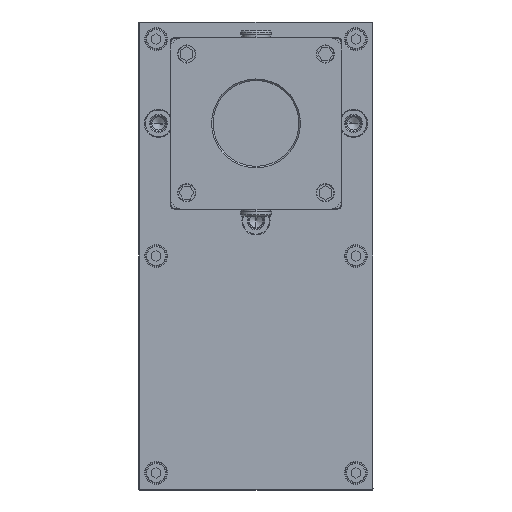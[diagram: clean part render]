
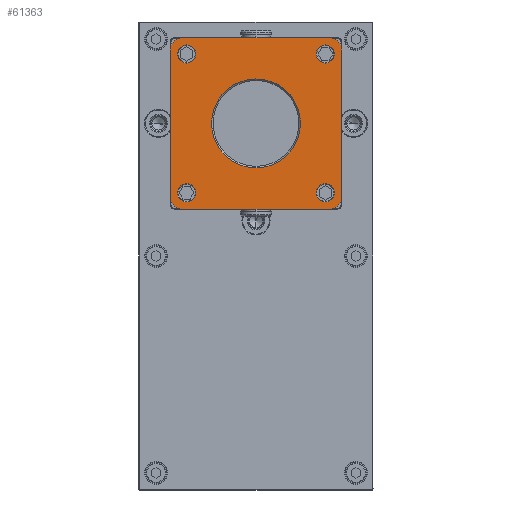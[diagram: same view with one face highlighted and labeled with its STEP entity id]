
A CAD part, front view. The second image highlights one B-rep face of the part: STEP entity #61363.
In plain terms, the highlighted planar face has unit normal (0, -1, 0).
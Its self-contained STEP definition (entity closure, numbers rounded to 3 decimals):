
#60418=CARTESIAN_POINT('',(47.,-7.,47.));
#60419=DIRECTION('',(0.,-1.,0.));
#60420=DIRECTION('',(1.,0.,0.));
#60421=AXIS2_PLACEMENT_3D('',#60418,#60419,#60420);
#60423=DIRECTION('',(0.,0.,-1.));
#60424=VECTOR('',#60423,94.);
#60425=CARTESIAN_POINT('',(55.,-7.,47.));
#60426=LINE('',#60425,#60424);
#60427=CARTESIAN_POINT('',(47.,-7.,-47.));
#60428=DIRECTION('',(0.,-1.,0.));
#60429=DIRECTION('',(0.,0.,-1.));
#60430=AXIS2_PLACEMENT_3D('',#60427,#60428,#60429);
#60432=DIRECTION('',(-1.,0.,0.));
#60433=VECTOR('',#60432,94.);
#60434=CARTESIAN_POINT('',(47.,-7.,-55.));
#60435=LINE('',#60434,#60433);
#60436=CARTESIAN_POINT('',(-47.,-7.,-47.));
#60437=DIRECTION('',(0.,-1.,0.));
#60438=DIRECTION('',(-1.,0.,0.));
#60439=AXIS2_PLACEMENT_3D('',#60436,#60437,#60438);
#60441=DIRECTION('',(0.,0.,1.));
#60442=VECTOR('',#60441,94.);
#60443=CARTESIAN_POINT('',(-55.,-7.,-47.));
#60444=LINE('',#60443,#60442);
#60445=CARTESIAN_POINT('',(-47.,-7.,47.));
#60446=DIRECTION('',(0.,-1.,0.));
#60447=DIRECTION('',(0.,0.,1.));
#60448=AXIS2_PLACEMENT_3D('',#60445,#60446,#60447);
#60450=DIRECTION('',(1.,0.,0.));
#60451=VECTOR('',#60450,94.);
#60452=CARTESIAN_POINT('',(-47.,-7.,55.));
#60453=LINE('',#60452,#60451);
#60454=CARTESIAN_POINT('',(44.5,-7.,-44.5));
#60455=DIRECTION('',(0.,1.,0.));
#60456=DIRECTION('',(1.,0.,0.));
#60457=AXIS2_PLACEMENT_3D('',#60454,#60455,#60456);
#60459=CARTESIAN_POINT('',(44.5,-7.,-44.5));
#60460=DIRECTION('',(0.,1.,0.));
#60461=DIRECTION('',(-1.,0.,0.));
#60462=AXIS2_PLACEMENT_3D('',#60459,#60460,#60461);
#60464=CARTESIAN_POINT('',(44.5,-7.,44.5));
#60465=DIRECTION('',(0.,1.,0.));
#60466=DIRECTION('',(-1.,0.,0.));
#60467=AXIS2_PLACEMENT_3D('',#60464,#60465,#60466);
#60469=CARTESIAN_POINT('',(44.5,-7.,44.5));
#60470=DIRECTION('',(0.,1.,0.));
#60471=DIRECTION('',(1.,0.,0.));
#60472=AXIS2_PLACEMENT_3D('',#60469,#60470,#60471);
#60474=CARTESIAN_POINT('',(-44.5,-7.,44.5));
#60475=DIRECTION('',(0.,1.,0.));
#60476=DIRECTION('',(-1.,0.,0.));
#60477=AXIS2_PLACEMENT_3D('',#60474,#60475,#60476);
#60479=CARTESIAN_POINT('',(-44.5,-7.,44.5));
#60480=DIRECTION('',(0.,1.,0.));
#60481=DIRECTION('',(1.,0.,0.));
#60482=AXIS2_PLACEMENT_3D('',#60479,#60480,#60481);
#60484=CARTESIAN_POINT('',(-44.5,-7.,-44.5));
#60485=DIRECTION('',(0.,1.,0.));
#60486=DIRECTION('',(1.,0.,0.));
#60487=AXIS2_PLACEMENT_3D('',#60484,#60485,#60486);
#60489=CARTESIAN_POINT('',(-44.5,-7.,-44.5));
#60490=DIRECTION('',(0.,1.,0.));
#60491=DIRECTION('',(-1.,0.,0.));
#60492=AXIS2_PLACEMENT_3D('',#60489,#60490,#60491);
#60494=CARTESIAN_POINT('',(0.,-7.,0.));
#60495=DIRECTION('',(0.,1.,0.));
#60496=DIRECTION('',(0.,0.,1.));
#60497=AXIS2_PLACEMENT_3D('',#60494,#60495,#60496);
#60499=CARTESIAN_POINT('',(0.,-7.,0.));
#60500=DIRECTION('',(0.,1.,0.));
#60501=DIRECTION('',(0.,0.,-1.));
#60502=AXIS2_PLACEMENT_3D('',#60499,#60500,#60501);
#61154=CARTESIAN_POINT('',(55.,-7.,47.));
#61155=CARTESIAN_POINT('',(47.,-7.,55.));
#61156=VERTEX_POINT('',#61154);
#61157=VERTEX_POINT('',#61155);
#61162=CARTESIAN_POINT('',(-47.,-7.,55.));
#61163=CARTESIAN_POINT('',(-55.,-7.,47.));
#61164=VERTEX_POINT('',#61162);
#61165=VERTEX_POINT('',#61163);
#61170=CARTESIAN_POINT('',(47.,-7.,-55.));
#61171=CARTESIAN_POINT('',(55.,-7.,-47.));
#61172=VERTEX_POINT('',#61170);
#61173=VERTEX_POINT('',#61171);
#61178=CARTESIAN_POINT('',(-55.,-7.,-47.));
#61179=CARTESIAN_POINT('',(-47.,-7.,-55.));
#61180=VERTEX_POINT('',#61178);
#61181=VERTEX_POINT('',#61179);
#61202=CARTESIAN_POINT('',(50.3,-7.,-44.5));
#61203=CARTESIAN_POINT('',(38.7,-7.,-44.5));
#61204=VERTEX_POINT('',#61202);
#61205=VERTEX_POINT('',#61203);
#61210=CARTESIAN_POINT('',(38.7,-7.,44.5));
#61211=CARTESIAN_POINT('',(50.3,-7.,44.5));
#61212=VERTEX_POINT('',#61210);
#61213=VERTEX_POINT('',#61211);
#61218=CARTESIAN_POINT('',(-50.3,-7.,44.5));
#61219=CARTESIAN_POINT('',(-38.7,-7.,44.5));
#61220=VERTEX_POINT('',#61218);
#61221=VERTEX_POINT('',#61219);
#61226=CARTESIAN_POINT('',(-38.7,-7.,-44.5));
#61227=CARTESIAN_POINT('',(-50.3,-7.,-44.5));
#61228=VERTEX_POINT('',#61226);
#61229=VERTEX_POINT('',#61227);
#61302=CARTESIAN_POINT('',(0.,-7.,28.5));
#61303=CARTESIAN_POINT('',(0.,-7.,-28.5));
#61304=VERTEX_POINT('',#61302);
#61305=VERTEX_POINT('',#61303);
#61310=CARTESIAN_POINT('',(0.,-7.,0.));
#61311=DIRECTION('',(0.,1.,0.));
#61312=DIRECTION('',(1.,0.,0.));
#61313=AXIS2_PLACEMENT_3D('',#61310,#61311,#61312);
#61314=PLANE('',#61313);
#61316=ORIENTED_EDGE('',*,*,#61315,.F.);
#61318=ORIENTED_EDGE('',*,*,#61317,.T.);
#61320=ORIENTED_EDGE('',*,*,#61319,.F.);
#61322=ORIENTED_EDGE('',*,*,#61321,.T.);
#61324=ORIENTED_EDGE('',*,*,#61323,.F.);
#61326=ORIENTED_EDGE('',*,*,#61325,.T.);
#61328=ORIENTED_EDGE('',*,*,#61327,.F.);
#61330=ORIENTED_EDGE('',*,*,#61329,.T.);
#61331=EDGE_LOOP('',(#61316,#61318,#61320,#61322,#61324,#61326,#61328,#61330));
#61332=FACE_OUTER_BOUND('',#61331,.F.);
#61334=ORIENTED_EDGE('',*,*,#61333,.F.);
#61336=ORIENTED_EDGE('',*,*,#61335,.F.);
#61337=EDGE_LOOP('',(#61334,#61336));
#61338=FACE_BOUND('',#61337,.F.);
#61340=ORIENTED_EDGE('',*,*,#61339,.F.);
#61342=ORIENTED_EDGE('',*,*,#61341,.F.);
#61343=EDGE_LOOP('',(#61340,#61342));
#61344=FACE_BOUND('',#61343,.F.);
#61346=ORIENTED_EDGE('',*,*,#61345,.F.);
#61348=ORIENTED_EDGE('',*,*,#61347,.F.);
#61349=EDGE_LOOP('',(#61346,#61348));
#61350=FACE_BOUND('',#61349,.F.);
#61352=ORIENTED_EDGE('',*,*,#61351,.F.);
#61354=ORIENTED_EDGE('',*,*,#61353,.F.);
#61355=EDGE_LOOP('',(#61352,#61354));
#61356=FACE_BOUND('',#61355,.F.);
#61358=ORIENTED_EDGE('',*,*,#61357,.F.);
#61360=ORIENTED_EDGE('',*,*,#61359,.F.);
#61361=EDGE_LOOP('',(#61358,#61360));
#61362=FACE_BOUND('',#61361,.F.);
#61363=ADVANCED_FACE('',(#61332,#61338,#61344,#61350,#61356,#61362),#61314,.F.);
#60422=CIRCLE('',#60421,8.);
#60431=CIRCLE('',#60430,8.);
#60440=CIRCLE('',#60439,8.);
#60449=CIRCLE('',#60448,8.);
#60458=CIRCLE('',#60457,5.8);
#60463=CIRCLE('',#60462,5.8);
#60468=CIRCLE('',#60467,5.8);
#60473=CIRCLE('',#60472,5.8);
#60478=CIRCLE('',#60477,5.8);
#60483=CIRCLE('',#60482,5.8);
#60488=CIRCLE('',#60487,5.8);
#60493=CIRCLE('',#60492,5.8);
#60498=CIRCLE('',#60497,28.5);
#60503=CIRCLE('',#60502,28.5);
#61315=EDGE_CURVE('',#61156,#61157,#60422,.T.);
#61317=EDGE_CURVE('',#61156,#61173,#60426,.T.);
#61319=EDGE_CURVE('',#61172,#61173,#60431,.T.);
#61321=EDGE_CURVE('',#61172,#61181,#60435,.T.);
#61323=EDGE_CURVE('',#61180,#61181,#60440,.T.);
#61325=EDGE_CURVE('',#61180,#61165,#60444,.T.);
#61327=EDGE_CURVE('',#61164,#61165,#60449,.T.);
#61329=EDGE_CURVE('',#61164,#61157,#60453,.T.);
#61333=EDGE_CURVE('',#61204,#61205,#60458,.T.);
#61335=EDGE_CURVE('',#61205,#61204,#60463,.T.);
#61339=EDGE_CURVE('',#61212,#61213,#60468,.T.);
#61341=EDGE_CURVE('',#61213,#61212,#60473,.T.);
#61345=EDGE_CURVE('',#61220,#61221,#60478,.T.);
#61347=EDGE_CURVE('',#61221,#61220,#60483,.T.);
#61351=EDGE_CURVE('',#61228,#61229,#60488,.T.);
#61353=EDGE_CURVE('',#61229,#61228,#60493,.T.);
#61357=EDGE_CURVE('',#61304,#61305,#60498,.T.);
#61359=EDGE_CURVE('',#61305,#61304,#60503,.T.);
